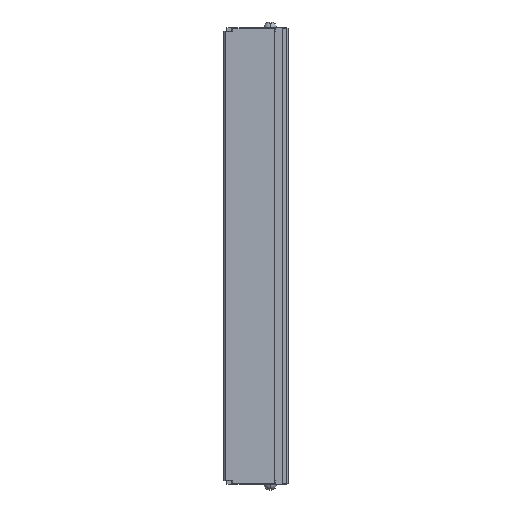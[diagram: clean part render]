
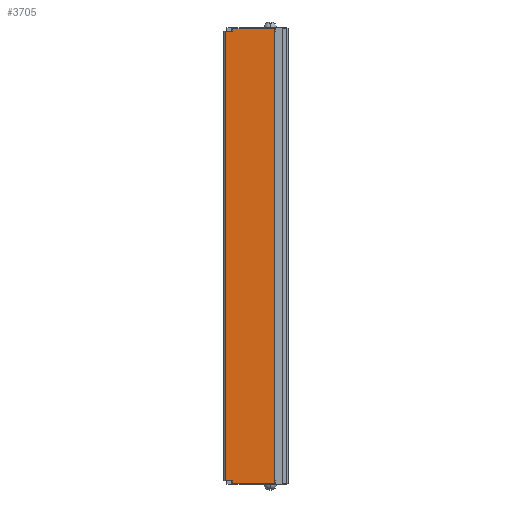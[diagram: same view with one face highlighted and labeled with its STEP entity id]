
A CAD part, left-side view. The second image highlights one B-rep face of the part: STEP entity #3705.
In plain terms, the highlighted planar face has unit normal (-1, 0, 0).
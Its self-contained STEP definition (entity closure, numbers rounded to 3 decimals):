
#189=DIRECTION('',(0.,1.,0.));
#190=VECTOR('',#189,3.3);
#191=CARTESIAN_POINT('',(-19.,13.2,94.5));
#192=LINE('',#191,#190);
#389=DIRECTION('',(0.,0.,-1.));
#390=VECTOR('',#389,1.);
#391=CARTESIAN_POINT('',(-19.,13.2,-94.5));
#392=LINE('',#391,#390);
#401=DIRECTION('',(0.,1.,0.));
#402=VECTOR('',#401,3.3);
#403=CARTESIAN_POINT('',(-19.,13.2,-94.5));
#404=LINE('',#403,#402);
#405=DIRECTION('',(0.,0.,1.));
#406=VECTOR('',#405,1.);
#407=CARTESIAN_POINT('',(-19.,13.2,94.5));
#408=LINE('',#407,#406);
#413=DIRECTION('',(0.,0.,1.));
#414=VECTOR('',#413,191.);
#415=CARTESIAN_POINT('',(-19.,-4.3,-95.5));
#416=LINE('',#415,#414);
#961=DIRECTION('',(0.,-1.,0.));
#962=VECTOR('',#961,17.5);
#963=CARTESIAN_POINT('',(-19.,13.2,-95.5));
#964=LINE('',#963,#962);
#2117=DIRECTION('',(0.,1.,0.));
#2118=VECTOR('',#2117,17.5);
#2119=CARTESIAN_POINT('',(-19.,-4.3,95.5));
#2120=LINE('',#2119,#2118);
#2321=DIRECTION('',(0.,0.,-1.));
#2322=VECTOR('',#2321,189.);
#2323=CARTESIAN_POINT('',(-19.,16.5,94.5));
#2324=LINE('',#2323,#2322);
#2357=CARTESIAN_POINT('',(-19.,16.5,-94.5));
#2358=VERTEX_POINT('',#2357);
#2367=CARTESIAN_POINT('',(-19.,16.5,94.5));
#2368=VERTEX_POINT('',#2367);
#2429=CARTESIAN_POINT('',(-19.,13.2,95.5));
#2430=VERTEX_POINT('',#2429);
#2635=CARTESIAN_POINT('',(-19.,-4.3,95.5));
#2637=VERTEX_POINT('',#2635);
#2717=CARTESIAN_POINT('',(-19.,13.2,94.5));
#2719=VERTEX_POINT('',#2717);
#2775=CARTESIAN_POINT('',(-19.,13.2,-95.5));
#2777=VERTEX_POINT('',#2775);
#2781=CARTESIAN_POINT('',(-19.,-4.3,-95.5));
#2782=VERTEX_POINT('',#2781);
#3011=CARTESIAN_POINT('',(-19.,13.2,-94.5));
#3012=VERTEX_POINT('',#3011);
#3686=CARTESIAN_POINT('',(-19.,16.5,-94.5));
#3687=DIRECTION('',(-1.,0.,0.));
#3688=DIRECTION('',(0.,-1.,0.));
#3689=AXIS2_PLACEMENT_3D('',#3686,#3687,#3688);
#3690=PLANE('',#3689);
#3692=ORIENTED_EDGE('',*,*,#3691,.F.);
#3694=ORIENTED_EDGE('',*,*,#3693,.F.);
#3695=ORIENTED_EDGE('',*,*,#3677,.F.);
#3696=ORIENTED_EDGE('',*,*,#3126,.T.);
#3698=ORIENTED_EDGE('',*,*,#3697,.F.);
#3699=ORIENTED_EDGE('',*,*,#3356,.F.);
#3700=ORIENTED_EDGE('',*,*,#3522,.T.);
#3702=ORIENTED_EDGE('',*,*,#3701,.F.);
#3703=EDGE_LOOP('',(#3692,#3694,#3695,#3696,#3698,#3699,#3700,#3702));
#3704=FACE_OUTER_BOUND('',#3703,.F.);
#3126=EDGE_CURVE('',#3012,#2358,#404,.T.);
#3356=EDGE_CURVE('',#2719,#2368,#192,.T.);
#3522=EDGE_CURVE('',#2719,#2430,#408,.T.);
#3677=EDGE_CURVE('',#3012,#2777,#392,.T.);
#3691=EDGE_CURVE('',#2782,#2637,#416,.T.);
#3693=EDGE_CURVE('',#2777,#2782,#964,.T.);
#3697=EDGE_CURVE('',#2368,#2358,#2324,.T.);
#3701=EDGE_CURVE('',#2637,#2430,#2120,.T.);
#3705=ADVANCED_FACE('',(#3704),#3690,.T.);
